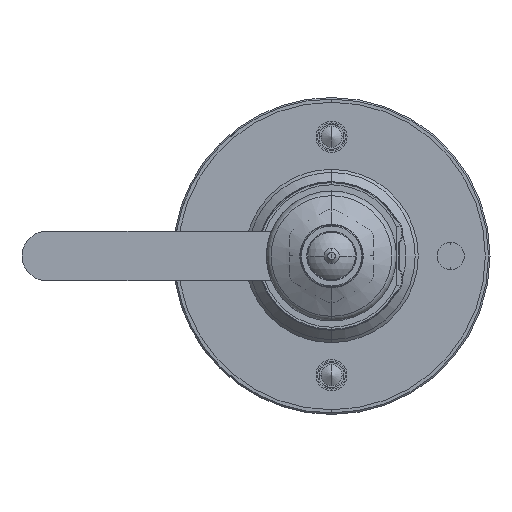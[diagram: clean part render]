
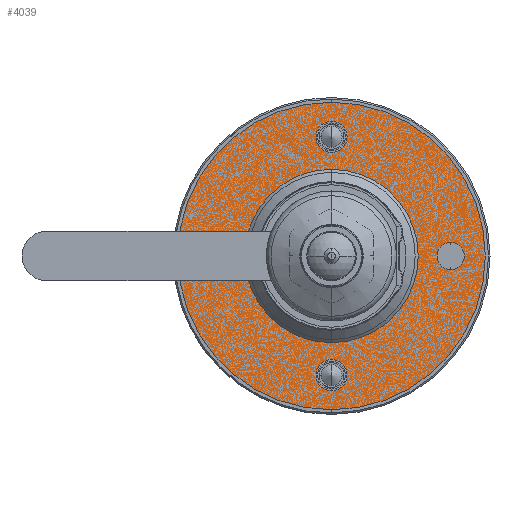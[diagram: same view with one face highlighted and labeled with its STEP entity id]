
A CAD part, front view. The second image highlights one B-rep face of the part: STEP entity #4039.
In plain terms, the highlighted planar face has unit normal (0, -1, 0) as drawn and (0, 0, -1) by its records, which use the part's own axes.
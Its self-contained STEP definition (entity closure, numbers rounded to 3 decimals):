
#377 = CIRCLE ( 'NONE', #22053, 4.4 ) ;
#609 = VERTEX_POINT ( 'NONE', #18804 ) ;
#754 = EDGE_LOOP ( 'NONE', ( #21224, #28501 ) ) ;
#882 = CARTESIAN_POINT ( 'NONE',  ( -49.675, 0., 0. ) ) ;
#1306 = DIRECTION ( 'NONE',  ( 0., 0., 1. ) ) ;
#1919 = EDGE_CURVE ( 'NONE', #29193, #17464, #17368, .T. ) ;
#1940 = DIRECTION ( 'NONE',  ( 0., 0., 1. ) ) ;
#2403 = CIRCLE ( 'NONE', #19642, 4.4 ) ;
#2705 = DIRECTION ( 'NONE',  ( -1., 0., 0. ) ) ;
#2762 = CARTESIAN_POINT ( 'NONE',  ( -4.4, 38.5, 0. ) ) ;
#3441 = CARTESIAN_POINT ( 'NONE',  ( 0., 0., 0. ) ) ;
#3604 = DIRECTION ( 'NONE',  ( -1., 0., 0. ) ) ;
#3788 = CARTESIAN_POINT ( 'NONE',  ( 0., 38.5, 0. ) ) ;
#3796 = DIRECTION ( 'NONE',  ( -1., 0., 0. ) ) ;
#3870 = EDGE_LOOP ( 'NONE', ( #10033, #4551 ) ) ;
#4039 = ADVANCED_FACE ( 'NONE', ( #7287, #26536, #28687, #5446, #16727, #9759 ), #19168, .T. ) ;
#4200 = EDGE_CURVE ( 'NONE', #4504, #23720, #16793, .T. ) ;
#4504 = VERTEX_POINT ( 'NONE', #19250 ) ;
#4551 = ORIENTED_EDGE ( 'NONE', *, *, #4200, .T. ) ;
#5444 = AXIS2_PLACEMENT_3D ( 'NONE', #10838, #22542, #24539 ) ;
#5446 = FACE_BOUND ( 'NONE', #754, .T. ) ;
#5545 = DIRECTION ( 'NONE',  ( -1., 0., 0. ) ) ;
#5783 = EDGE_LOOP ( 'NONE', ( #18092, #10901 ) ) ;
#6175 = DIRECTION ( 'NONE',  ( 0., 0., 1. ) ) ;
#6835 = EDGE_CURVE ( 'NONE', #13669, #20060, #16274, .T. ) ;
#7287 = FACE_OUTER_BOUND ( 'NONE', #27798, .T. ) ;
#7442 = DIRECTION ( 'NONE',  ( 0., 0., -1. ) ) ;
#7463 = CARTESIAN_POINT ( 'NONE',  ( 0., -38.5, 0. ) ) ;
#7955 = CARTESIAN_POINT ( 'NONE',  ( 0., 38.5, 0. ) ) ;
#8065 = CIRCLE ( 'NONE', #17915, 4.4 ) ;
#8837 = CARTESIAN_POINT ( 'NONE',  ( 4.4, -38.5, 0. ) ) ;
#8888 = CIRCLE ( 'NONE', #26095, 4.4 ) ;
#9085 = CARTESIAN_POINT ( 'NONE',  ( 38.5, 0., 0. ) ) ;
#9381 = DIRECTION ( 'NONE',  ( 0., 0., 1. ) ) ;
#9759 = FACE_BOUND ( 'NONE', #3870, .T. ) ;
#9871 = EDGE_LOOP ( 'NONE', ( #22598, #13684 ) ) ;
#10004 = ORIENTED_EDGE ( 'NONE', *, *, #1919, .T. ) ;
#10022 = AXIS2_PLACEMENT_3D ( 'NONE', #20256, #12894, #24275 ) ;
#10033 = ORIENTED_EDGE ( 'NONE', *, *, #27680, .T. ) ;
#10572 = DIRECTION ( 'NONE',  ( 0., 0., 1. ) ) ;
#10731 = CARTESIAN_POINT ( 'NONE',  ( -38.5, 0., 0. ) ) ;
#10838 = CARTESIAN_POINT ( 'NONE',  ( 0., 0., 0. ) ) ;
#10901 = ORIENTED_EDGE ( 'NONE', *, *, #16772, .T. ) ;
#11172 = EDGE_CURVE ( 'NONE', #27148, #25641, #29022, .T. ) ;
#11175 = EDGE_CURVE ( 'NONE', #18595, #609, #8888, .T. ) ;
#11201 = DIRECTION ( 'NONE',  ( -1., 0., 0. ) ) ;
#11479 = DIRECTION ( 'NONE',  ( 0., 0., 1. ) ) ;
#11543 = AXIS2_PLACEMENT_3D ( 'NONE', #9085, #9381, #23269 ) ;
#11749 = CARTESIAN_POINT ( 'NONE',  ( 43.5, 0., 0. ) ) ;
#11816 = AXIS2_PLACEMENT_3D ( 'NONE', #13800, #11479, #30217 ) ;
#11914 = VERTEX_POINT ( 'NONE', #8837 ) ;
#12424 = CARTESIAN_POINT ( 'NONE',  ( -43.5, 0., 0. ) ) ;
#12894 = DIRECTION ( 'NONE',  ( 0., 0., -1. ) ) ;
#13251 = EDGE_CURVE ( 'NONE', #17464, #29193, #18876, .T. ) ;
#13669 = VERTEX_POINT ( 'NONE', #11749 ) ;
#13684 = ORIENTED_EDGE ( 'NONE', *, *, #26832, .T. ) ;
#13800 = CARTESIAN_POINT ( 'NONE',  ( 38.5, 0., 0. ) ) ;
#13821 = CARTESIAN_POINT ( 'NONE',  ( 49.675, 0., 0. ) ) ;
#14689 = CIRCLE ( 'NONE', #23031, 5. ) ;
#15212 = EDGE_LOOP ( 'NONE', ( #18683, #22220 ) ) ;
#15220 = DIRECTION ( 'NONE',  ( 0., 0., 1. ) ) ;
#15678 = AXIS2_PLACEMENT_3D ( 'NONE', #3441, #6175, #17613 ) ;
#16274 = CIRCLE ( 'NONE', #11816, 5. ) ;
#16323 = EDGE_CURVE ( 'NONE', #20060, #13669, #19385, .T. ) ;
#16451 = CARTESIAN_POINT ( 'NONE',  ( 0., -38.5, 0. ) ) ;
#16727 = FACE_BOUND ( 'NONE', #9871, .T. ) ;
#16772 = EDGE_CURVE ( 'NONE', #609, #18595, #8065, .T. ) ;
#16793 = CIRCLE ( 'NONE', #5444, 22. ) ;
#17368 = CIRCLE ( 'NONE', #26194, 49.675 ) ;
#17464 = VERTEX_POINT ( 'NONE', #13821 ) ;
#17613 = DIRECTION ( 'NONE',  ( 1., 0., 0. ) ) ;
#17668 = CARTESIAN_POINT ( 'NONE',  ( 33.5, 0., 0. ) ) ;
#17671 = CARTESIAN_POINT ( 'NONE',  ( -38.5, 0., 0. ) ) ;
#17800 = CARTESIAN_POINT ( 'NONE',  ( 22., 0., 0. ) ) ;
#17915 = AXIS2_PLACEMENT_3D ( 'NONE', #3788, #10572, #19957 ) ;
#18092 = ORIENTED_EDGE ( 'NONE', *, *, #11175, .T. ) ;
#18595 = VERTEX_POINT ( 'NONE', #2762 ) ;
#18683 = ORIENTED_EDGE ( 'NONE', *, *, #28512, .T. ) ;
#18804 = CARTESIAN_POINT ( 'NONE',  ( 4.4, 38.5, 0. ) ) ;
#18876 = CIRCLE ( 'NONE', #10022, 49.675 ) ;
#19168 = PLANE ( 'NONE',  #21726 ) ;
#19250 = CARTESIAN_POINT ( 'NONE',  ( -22., 0., 0. ) ) ;
#19385 = CIRCLE ( 'NONE', #11543, 5. ) ;
#19498 = DIRECTION ( 'NONE',  ( -1., 0., 0. ) ) ;
#19567 = CARTESIAN_POINT ( 'NONE',  ( 0., 0., 0. ) ) ;
#19642 = AXIS2_PLACEMENT_3D ( 'NONE', #16451, #23809, #2705 ) ;
#19957 = DIRECTION ( 'NONE',  ( -1., 0., 0. ) ) ;
#20060 = VERTEX_POINT ( 'NONE', #17668 ) ;
#20256 = CARTESIAN_POINT ( 'NONE',  ( 0., 0., 0. ) ) ;
#21224 = ORIENTED_EDGE ( 'NONE', *, *, #16323, .T. ) ;
#21726 = AXIS2_PLACEMENT_3D ( 'NONE', #28524, #7442, #3604 ) ;
#22053 = AXIS2_PLACEMENT_3D ( 'NONE', #7463, #28707, #19498 ) ;
#22192 = AXIS2_PLACEMENT_3D ( 'NONE', #17671, #15220, #24582 ) ;
#22220 = ORIENTED_EDGE ( 'NONE', *, *, #26994, .T. ) ;
#22542 = DIRECTION ( 'NONE',  ( 0., 0., 1. ) ) ;
#22598 = ORIENTED_EDGE ( 'NONE', *, *, #11172, .T. ) ;
#23008 = ORIENTED_EDGE ( 'NONE', *, *, #13251, .T. ) ;
#23031 = AXIS2_PLACEMENT_3D ( 'NONE', #10731, #1940, #11201 ) ;
#23269 = DIRECTION ( 'NONE',  ( -1., 0., 0. ) ) ;
#23720 = VERTEX_POINT ( 'NONE', #17800 ) ;
#23809 = DIRECTION ( 'NONE',  ( 0., 0., 1. ) ) ;
#24275 = DIRECTION ( 'NONE',  ( -1., 0., 0. ) ) ;
#24539 = DIRECTION ( 'NONE',  ( 1., 0., 0. ) ) ;
#24582 = DIRECTION ( 'NONE',  ( -1., 0., 0. ) ) ;
#25641 = VERTEX_POINT ( 'NONE', #29066 ) ;
#26095 = AXIS2_PLACEMENT_3D ( 'NONE', #7955, #1306, #3796 ) ;
#26194 = AXIS2_PLACEMENT_3D ( 'NONE', #19567, #26633, #5545 ) ;
#26269 = VERTEX_POINT ( 'NONE', #28425 ) ;
#26536 = FACE_BOUND ( 'NONE', #15212, .T. ) ;
#26633 = DIRECTION ( 'NONE',  ( 0., 0., -1. ) ) ;
#26832 = EDGE_CURVE ( 'NONE', #25641, #27148, #14689, .T. ) ;
#26994 = EDGE_CURVE ( 'NONE', #11914, #26269, #377, .T. ) ;
#27148 = VERTEX_POINT ( 'NONE', #12424 ) ;
#27680 = EDGE_CURVE ( 'NONE', #23720, #4504, #30393, .T. ) ;
#27798 = EDGE_LOOP ( 'NONE', ( #23008, #10004 ) ) ;
#28425 = CARTESIAN_POINT ( 'NONE',  ( -4.4, -38.5, 0. ) ) ;
#28501 = ORIENTED_EDGE ( 'NONE', *, *, #6835, .T. ) ;
#28512 = EDGE_CURVE ( 'NONE', #26269, #11914, #2403, .T. ) ;
#28524 = CARTESIAN_POINT ( 'NONE',  ( 22., 0., 0. ) ) ;
#28687 = FACE_BOUND ( 'NONE', #5783, .T. ) ;
#28707 = DIRECTION ( 'NONE',  ( 0., 0., 1. ) ) ;
#29022 = CIRCLE ( 'NONE', #22192, 5. ) ;
#29066 = CARTESIAN_POINT ( 'NONE',  ( -33.5, 0., 0. ) ) ;
#29193 = VERTEX_POINT ( 'NONE', #882 ) ;
#30217 = DIRECTION ( 'NONE',  ( -1., 0., 0. ) ) ;
#30393 = CIRCLE ( 'NONE', #15678, 22. ) ;
